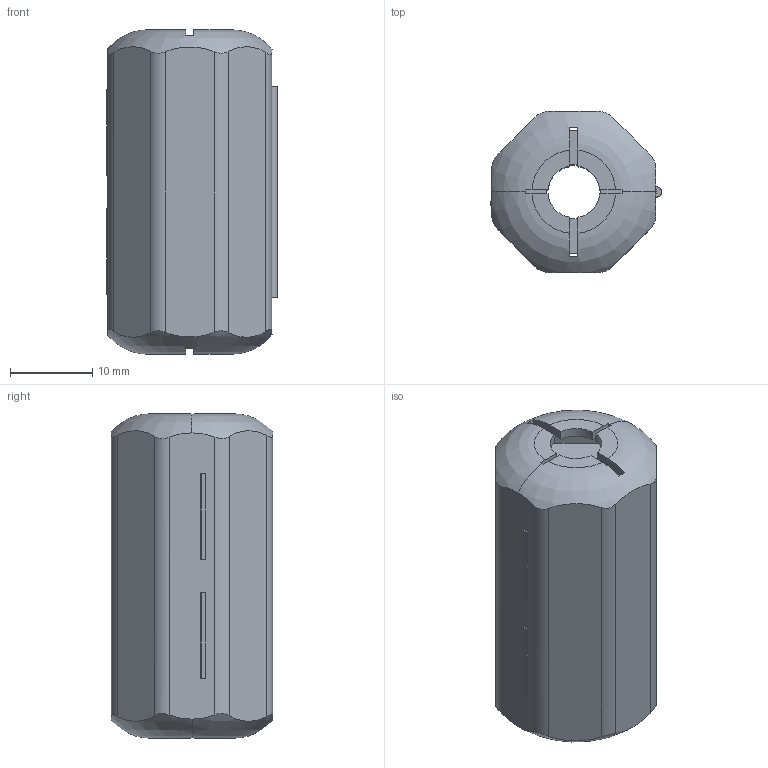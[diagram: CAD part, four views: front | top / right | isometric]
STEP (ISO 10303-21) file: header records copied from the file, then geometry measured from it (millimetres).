
FILE_DESCRIPTION (( 'STEP AP203' ), '1' );
FILE_NAME ('0446164281.STEP', '2020-07-13T15:30:22', ( '' ), ( '' ), 'SwSTEP 2.0', 'SolidWorks 2018', '' );
FILE_SCHEMA (( 'CONFIG_CONTROL_DESIGN' ));
Length unit declared in the file: inch
Products named in the file (1): 0446164281
Bounding box: 20.78 x 19.61 x 39.5 mm (x, y, z)
Volume: 8791 mm3; surface area: 7556.7 mm2
Topology: 2 solids, 2 shells, 112 faces, 321 edges, 214 vertices
Faces by surface type: plane 80, cylinder 24, torus 8
Entity records: 4244 total; most frequent: CARTESIAN_POINT 1410, ORIENTED_EDGE 642, DIRECTION 479, EDGE_CURVE 321, VERTEX_POINT 214, AXIS2_PLACEMENT_3D 165, LINE 149, VECTOR 149
